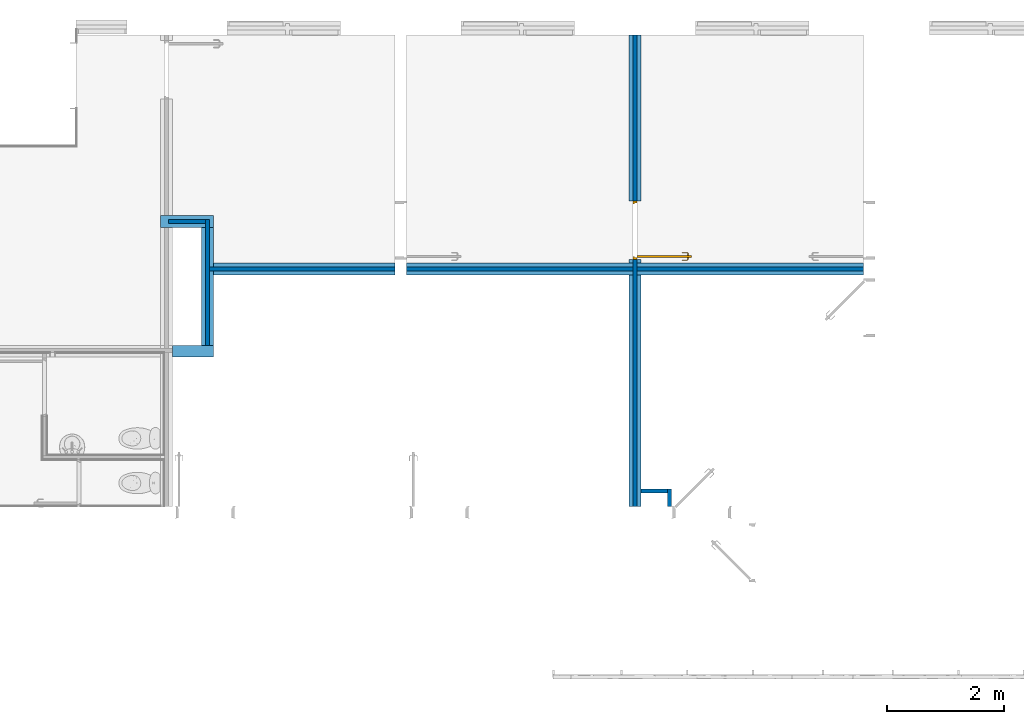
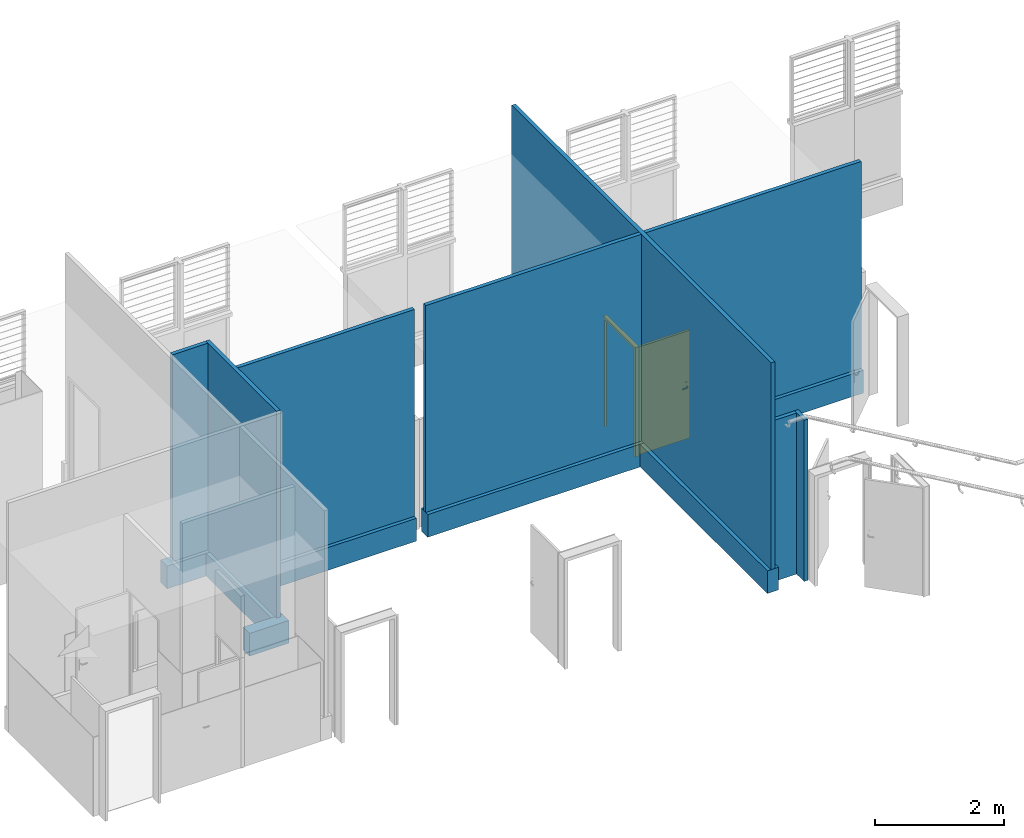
# One storey, part 8 of 18: 13 walls, 1 door, 4 openings.
"""IFC2X3 building model written with IfcOpenShell, lengths in metres."""

from ifc_helpers import new_model, entity, si_unit, converted_unit, derived_unit, direction, frame, frame_2d, origin, place, context, subcontext, project, spatial, polyline, rectangle, extrude, clip, bounded_halfspace, faceted_brep, source, transform, mapped, material, layer, layer_set, layer_usage, type_object, type_shapes, element, fill, save


model = new_model("IFC2X3")

# Units and contexts
model_context = context("Model", 3, precision=1e-05, world=origin(), true_north=direction((6.12303176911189e-17, 1.0)))
body_context = subcontext(model_context, "Body", "Model", "MODEL_VIEW")
ifc_project = project(units=[si_unit("LENGTHUNIT", "METRE"), si_unit("AREAUNIT", "SQUARE_METRE"), si_unit("VOLUMEUNIT", "CUBIC_METRE"), converted_unit("PLANEANGLEUNIT", "DEGREE", entity("IfcRatioMeasure", 0.0174532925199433), si_unit("PLANEANGLEUNIT", "RADIAN"), dimensions=[0, 0, 0, 0, 0, 0, 0]), si_unit("MASSUNIT", "GRAM", prefix="KILO"), derived_unit("MASSDENSITYUNIT", [(si_unit("MASSUNIT", "GRAM", prefix="KILO"), 1), (si_unit("LENGTHUNIT", "METRE"), -3)]), si_unit("TIMEUNIT", "SECOND"), si_unit("FREQUENCYUNIT", "HERTZ"), si_unit("THERMODYNAMICTEMPERATUREUNIT", "DEGREE_CELSIUS"), derived_unit("THERMALTRANSMITTANCEUNIT", [(si_unit("MASSUNIT", "GRAM", prefix="KILO"), 1), (si_unit("THERMODYNAMICTEMPERATUREUNIT", "KELVIN"), -1), (si_unit("TIMEUNIT", "SECOND"), -3)]), derived_unit("VOLUMETRICFLOWRATEUNIT", [(si_unit("LENGTHUNIT", "METRE"), 3), (si_unit("TIMEUNIT", "SECOND"), -1)]), si_unit("ELECTRICCURRENTUNIT", "AMPERE"), si_unit("ELECTRICVOLTAGEUNIT", "VOLT"), si_unit("POWERUNIT", "WATT"), si_unit("FORCEUNIT", "NEWTON", prefix="KILO"), si_unit("ILLUMINANCEUNIT", "LUX"), si_unit("LUMINOUSFLUXUNIT", "LUMEN"), si_unit("LUMINOUSINTENSITYUNIT", "CANDELA"), derived_unit("USERDEFINED", [(si_unit("MASSUNIT", "GRAM", prefix="KILO"), -1), (si_unit("LENGTHUNIT", "METRE"), -2), (si_unit("TIMEUNIT", "SECOND"), 3), (si_unit("LUMINOUSFLUXUNIT", "LUMEN"), 1)]), derived_unit("LINEARVELOCITYUNIT", [(si_unit("LENGTHUNIT", "METRE"), 1), (si_unit("TIMEUNIT", "SECOND"), -1)]), si_unit("PRESSUREUNIT", "PASCAL"), derived_unit("USERDEFINED", [(si_unit("LENGTHUNIT", "METRE"), -2), (si_unit("MASSUNIT", "GRAM", prefix="KILO"), 1), (si_unit("TIMEUNIT", "SECOND"), -2)])], contexts=[model_context])

# Site, building, storey
site_placement = place(None, origin())
site = spatial("IfcSite", under=ifc_project, at=site_placement, Name="Surface", CompositionType="ELEMENT")
building_placement = place(site_placement, origin())
building = spatial("IfcBuilding", under=site, at=building_placement, Name="ExPREF", CompositionType="ELEMENT")
storey_placement = place(building_placement, frame((0.0, 0.0, -4.62)))
storey = spatial("IfcBuildingStorey", under=building, at=storey_placement, Name="R-1", CompositionType="ELEMENT", Elevation=-4.62)

# Wall, opening, door
ifc_material_1 = material(Name="AA-fermacell peint")
ifc_layer_1 = layer(ifc_material_1, 0.0125)
ifc_material_2 = material(Name="AA-isolant plancher")
ifc_layer_2 = layer(ifc_material_2, 0.045)
ifc_layer_3 = layer(ifc_material_1, 0.0125)
ifc_layer_set_1 = layer_set([ifc_layer_1, ifc_layer_2, ifc_layer_3], Name="Mur de base:Générique - Int. 70 mm")
ifc_layer_usage_1 = layer_usage(ifc_layer_set_1, "AXIS2", "NEGATIVE", 0.035)
wall_type_1 = type_object("IfcWallType", Name="Mur de base:Générique - Int. 70 mm", PredefinedType="STANDARD", material=ifc_layer_set_1)
wall_1_placement = place(storey_placement, frame((57.4897436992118, -185.214488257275, 0.43), z_axis=(0.0, 0.0, 1.0), x_axis=(0.0, -1.0, 0.0)))
wall_1 = element("IfcWallStandardCase", 1, at=wall_1_placement, inside=storey, type_object=wall_type_1, material=ifc_layer_usage_1, Name="Mur de base:Générique - Int. 70 mm", ObjectType="Mur de base:Générique - Int. 70 mm", context=body_context, shape_type="Clipping", body=[
    clip(extrude(rectangle(XDim=8.04516304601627, YDim=0.0700000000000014, at=frame_2d((4.02258152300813, -7.97972798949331e-17), x_axis=(-1.0, 0.0))), origin(), (0.0, 0.0, 1.0), 3.91499999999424), bounded_halfspace(frame((7.99516304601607, 0.0349999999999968, 3.91499999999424), z_axis=(0.0, 0.0, -1.0), x_axis=(1.0, 0.0, 0.0)), True, frame((7.99516304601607, 0.0349999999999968, 3.91499999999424)), polyline([(0.0, 0.0), (0.0, -0.0700000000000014), (0.0500000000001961, -0.0700000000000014), (0.0500000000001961, 0.0), (0.0, 0.0)]))),
])
opening_1_placement = place(wall_1_placement, frame((2.83358152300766, -0.0349999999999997, -0.430000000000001)))
opening_1 = element("IfcOpeningElement", 2, at=opening_1_placement, cuts=wall_1, Name="Porte intérieur bois:PP (0.93m x 2.04m):1", ObjectType="Opening", context=body_context, shape_type="SweptSolid", body=[
    extrude(rectangle(XDim=2.075, YDim=1.0, at=frame_2d((1.0375, 0.5), x_axis=(1.0, 0.0))), frame((0.0, 0.0, 0.0), z_axis=(0.0, 1.0, 0.0), x_axis=(0.0, 0.0, 1.0)), (0.0, 0.0, 1.0), 0.07),
])
ifc_material_3 = material(Name="AA-Blanc satiné")
door_style = type_object("IfcDoorStyle", Name="PP (0.93m x 2.04m)", ConstructionType="NOTDEFINED", OperationType="SINGLE_SWING_RIGHT", ParameterTakesPrecedence=False, Sizeable=False, material=ifc_material_3)
shared_shape = source(origin(), body_context, "Body", "Brep", [
    faceted_brep([(0.150000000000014, -0.867974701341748, 0.992219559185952), (0.150000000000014, -0.872025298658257, 0.99221955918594), (0.150000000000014, -0.876000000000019, 0.992999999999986), (0.150000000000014, -0.876000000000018, 1.007), (0.150000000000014, -0.872025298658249, 1.00778044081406), (0.150000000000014, -0.867974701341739, 1.00778044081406), (0.150000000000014, -0.863999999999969, 1.007), (0.150000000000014, -0.863999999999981, 0.993000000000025), (0.172485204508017, -0.863999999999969, 1.007), (0.172485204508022, -0.863999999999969, 0.993000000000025), (0.174131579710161, -0.867974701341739, 1.00778044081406), (0.175809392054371, -0.872025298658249, 1.00778044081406), (0.191995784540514, -0.855838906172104, 1.00778044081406), (0.187945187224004, -0.854161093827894, 1.00778044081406), (0.177455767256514, -0.876000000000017, 1.007), (0.177455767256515, -0.876000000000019, 0.992999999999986), (0.175809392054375, -0.872025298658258, 0.99221955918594), (0.174131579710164, -0.867974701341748, 0.992219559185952), (0.187945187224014, -0.854161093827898, 0.992219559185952), (0.191995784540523, -0.855838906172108, 0.99221955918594), (0.183970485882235, -0.852514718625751, 1.007), (0.183970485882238, -0.852514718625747, 0.993000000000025), (0.195970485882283, -0.857485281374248, 1.007), (0.195970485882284, -0.857485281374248, 0.992999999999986), (0.187945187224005, -0.769954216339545, 1.00778044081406), (0.191995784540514, -0.769954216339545, 1.00778044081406), (0.195970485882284, -0.769954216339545, 1.007), (0.195970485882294, -0.769954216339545, 0.992999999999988), (0.191995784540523, -0.769954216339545, 0.99221955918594), (0.187945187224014, -0.769954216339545, 0.992219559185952), (0.183970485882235, -0.769954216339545, 0.993000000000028), (0.183970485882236, -0.769954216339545, 1.007), (0.183970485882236, -0.811234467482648, 1.007), (0.183970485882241, -0.811234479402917, 0.993000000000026), (0.189970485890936, -0.812057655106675, 1.0078786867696), (0.195970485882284, -0.817554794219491, 1.007), (0.195970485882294, -0.8175547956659, 0.992999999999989), (0.189970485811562, -0.812057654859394, 0.992121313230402)], [[[0, 1, 2, 3, 4, 5, 6, 7]], [[8, 9, 7, 6]], [[5, 10, 8, 6]], [[5, 4, 11, 12, 13, 10]], [[3, 14, 11, 4]], [[14, 3, 2, 15]], [[2, 1, 16, 15]], [[1, 0, 17, 18, 19, 16]], [[0, 7, 9, 17]], [[20, 21, 9, 8]], [[8, 10, 13, 20]], [[14, 22, 12, 11]], [[23, 22, 14, 15]], [[15, 16, 19, 23]], [[17, 9, 21, 18]], [[24, 25, 26, 27, 28, 29, 30, 31]], [[21, 20, 32, 31, 30, 33]], [[34, 24, 32]], [[25, 34, 35]], [[13, 32, 20]], [[24, 31, 32]], [[25, 35, 26]], [[35, 12, 22]], [[34, 12, 35]], [[34, 13, 12]], [[34, 32, 13]], [[24, 34, 25]], [[22, 23, 36, 27, 26, 35]], [[37, 28, 36]], [[36, 28, 27]], [[36, 23, 19]], [[18, 33, 37]], [[33, 18, 21]], [[30, 29, 33]], [[37, 29, 28]], [[37, 33, 29]], [[37, 36, 19]], [[18, 37, 19]]]),
    faceted_brep([(0.100000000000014, -0.867974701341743, 1.00778044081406), (0.100000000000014, -0.872025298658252, 1.00778044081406), (0.100000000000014, -0.876000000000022, 1.00699999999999), (0.100000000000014, -0.876000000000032, 0.992999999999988), (0.100000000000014, -0.87202529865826, 0.99221955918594), (0.100000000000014, -0.867974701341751, 0.992219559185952), (0.100000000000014, -0.863999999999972, 0.993000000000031), (0.100000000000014, -0.863999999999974, 1.007), (0.0739954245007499, -0.872025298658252, 1.00778044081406), (0.0723490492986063, -0.876000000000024, 1.007), (0.0756732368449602, -0.867974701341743, 1.00778044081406), (0.0619971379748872, -0.854298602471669, 1.00778044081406), (0.0579465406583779, -0.855976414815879, 1.00778044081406), (0.0773196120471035, -0.863999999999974, 1.007), (0.0773196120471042, -0.863999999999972, 0.993000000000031), (0.0756732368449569, -0.867974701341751, 0.992219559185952), (0.0739954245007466, -0.87202529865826, 0.99221955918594), (0.0579465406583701, -0.855976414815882, 0.99221955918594), (0.0619971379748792, -0.854298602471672, 0.992219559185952), (0.0723490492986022, -0.876000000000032, 0.992999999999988), (0.053971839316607, -0.857622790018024, 1.007), (0.0659718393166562, -0.852652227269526, 1.007), (0.0659718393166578, -0.852652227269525, 0.993000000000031), (0.0539718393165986, -0.857622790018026, 0.992999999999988), (0.0539718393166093, -0.769981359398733, 1.007), (0.0579465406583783, -0.769981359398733, 1.00778044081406), (0.0619971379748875, -0.769981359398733, 1.00778044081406), (0.0659718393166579, -0.769981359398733, 1.00699999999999), (0.0659718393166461, -0.769981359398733, 0.993000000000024), (0.0619971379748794, -0.769981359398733, 0.992219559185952), (0.0579465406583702, -0.769981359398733, 0.99221955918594), (0.0539718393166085, -0.769981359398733, 0.992999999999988), (0.059971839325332, -0.812139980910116, 1.0078786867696), (0.0539718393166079, -0.817692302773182, 1.007), (0.065971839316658, -0.811316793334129, 1.007), (0.0659718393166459, -0.811316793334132, 0.993000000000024), (0.0599718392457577, -0.812139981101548, 0.992121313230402), (0.0539718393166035, -0.817692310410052, 0.992999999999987)], [[[0, 1, 2, 3, 4, 5, 6, 7]], [[2, 1, 8, 9]], [[1, 0, 10, 11, 12, 8]], [[0, 7, 13, 10]], [[14, 13, 7, 6]], [[5, 15, 14, 6]], [[5, 4, 16, 17, 18, 15]], [[3, 19, 16, 4]], [[9, 19, 3, 2]], [[9, 8, 12, 20]], [[10, 13, 21, 11]], [[22, 21, 13, 14]], [[14, 15, 18, 22]], [[16, 19, 23, 17]], [[20, 23, 19, 9]], [[24, 25, 26, 27, 28, 29, 30, 31]], [[32, 25, 33]], [[33, 25, 24]], [[33, 20, 12]], [[11, 34, 32]], [[34, 11, 21]], [[27, 26, 34]], [[32, 26, 25]], [[32, 34, 26]], [[32, 33, 12]], [[11, 32, 12]], [[21, 22, 35, 28, 27, 34]], [[36, 29, 35]], [[30, 36, 37]], [[18, 35, 22]], [[29, 28, 35]], [[30, 37, 31]], [[37, 17, 23]], [[36, 17, 37]], [[36, 18, 17]], [[36, 35, 18]], [[29, 36, 30]], [[23, 20, 33, 24, 31, 37]]]),
    faceted_brep([(0.145000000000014, -0.89, 0.870000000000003), (0.145000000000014, -0.89, 1.08), (0.145000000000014, -0.880352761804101, 1.08399601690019), (0.145000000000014, -0.870000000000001, 1.08535898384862), (0.145000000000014, -0.8596472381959, 1.08399601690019), (0.145000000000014, -0.850000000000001, 1.08), (0.145000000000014, -0.849999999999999, 0.870000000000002), (0.145000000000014, -0.859647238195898, 0.866003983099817), (0.145000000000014, -0.869999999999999, 0.86464101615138), (0.145000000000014, -0.8803527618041, 0.866003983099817), (0.150000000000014, -0.870000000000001, 1.08535898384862), (0.150000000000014, -0.880352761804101, 1.08399601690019), (0.150000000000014, -0.89, 1.08), (0.150000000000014, -0.889999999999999, 0.870000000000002), (0.150000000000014, -0.8803527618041, 0.866003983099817), (0.150000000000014, -0.869999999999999, 0.86464101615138), (0.150000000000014, -0.859647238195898, 0.866003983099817), (0.150000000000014, -0.849999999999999, 0.870000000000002), (0.150000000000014, -0.850000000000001, 1.08), (0.150000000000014, -0.8596472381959, 1.08399601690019)], [[[0, 1, 2, 3, 4, 5, 6, 7, 8, 9]], [[10, 11, 12, 13, 14, 15, 16, 17, 18, 19]], [[4, 19, 18, 5]], [[3, 10, 19, 4]], [[2, 11, 10, 3]], [[2, 1, 12, 11]], [[13, 12, 1, 0]], [[9, 14, 13, 0]], [[8, 15, 14, 9]], [[7, 16, 15, 8]], [[7, 6, 17, 16]], [[17, 6, 5, 18]]]),
    faceted_brep([(0.100000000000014, -0.89, 0.870000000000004), (0.100000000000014, -0.89, 1.08), (0.100000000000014, -0.880352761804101, 1.08399601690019), (0.100000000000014, -0.87, 1.08535898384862), (0.100000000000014, -0.8596472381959, 1.08399601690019), (0.100000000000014, -0.850000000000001, 1.08), (0.100000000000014, -0.849999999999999, 0.870000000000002), (0.100000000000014, -0.859647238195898, 0.866003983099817), (0.100000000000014, -0.869999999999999, 0.86464101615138), (0.100000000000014, -0.8803527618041, 0.866003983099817), (0.105000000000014, -0.89, 1.08), (0.105000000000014, -0.889999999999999, 0.870000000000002), (0.105000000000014, -0.8803527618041, 0.866003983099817), (0.105000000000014, -0.869999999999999, 0.86464101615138), (0.105000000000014, -0.859647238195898, 0.866003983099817), (0.105000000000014, -0.849999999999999, 0.870000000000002), (0.105000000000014, -0.850000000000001, 1.08), (0.105000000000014, -0.8596472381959, 1.08399601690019), (0.105000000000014, -0.87, 1.08535898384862), (0.105000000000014, -0.880352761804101, 1.08399601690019)], [[[0, 1, 2, 3, 4, 5, 6, 7, 8, 9]], [[10, 11, 12, 13, 14, 15, 16, 17, 18, 19]], [[9, 12, 11, 0]], [[8, 13, 12, 9]], [[7, 14, 13, 8]], [[7, 6, 15, 14]], [[15, 6, 5, 16]], [[4, 17, 16, 5]], [[3, 18, 17, 4]], [[2, 19, 18, 3]], [[2, 1, 10, 19]], [[11, 10, 1, 0]]]),
    faceted_brep([(0.145000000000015, -0.93, 2.04), (0.145000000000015, -0.93, 0.0), (0.145000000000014, 0.0, 0.0), (0.145000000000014, 0.0, 2.04), (0.105000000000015, -0.93, 2.04), (0.105000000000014, 0.0, 2.04), (0.105000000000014, 0.0, 0.0), (0.105000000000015, -0.93, 0.0)], [[[0, 1, 2, 3]], [[4, 5, 6, 7]], [[3, 5, 4, 0]], [[2, 6, 5, 3]], [[1, 7, 6, 2]], [[0, 4, 7, 1]]]),
    faceted_brep([(1.07000000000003, 0.0, 0.0), (1.03500000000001, 0.0, 0.0), (1.03500000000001, 0.04, 0.0), (1.02000000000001, 0.04, 0.0), (1.02000000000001, 0.0699999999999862, 0.0), (1.07000000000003, 0.0699999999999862, 0.0), (1.07000000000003, 0.0699999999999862, 2.07500000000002), (1.07000000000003, 0.0, 2.07500000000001), (1.02000000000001, 0.0699999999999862, 2.025), (0.120000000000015, 0.0699999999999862, 2.025), (0.120000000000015, 0.0699999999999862, 0.0), (0.0699999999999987, 0.0699999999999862, 0.0), (0.0699999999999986, 0.0699999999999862, 2.07500000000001), (1.02000000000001, 0.04, 2.025), (1.03500000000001, 0.04, 2.04), (0.105000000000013, 0.04, 2.04), (0.105000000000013, 0.04, 0.0), (0.120000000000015, 0.04, 0.0), (0.120000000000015, 0.04, 2.025), (1.03500000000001, 0.0, 2.04), (0.0699999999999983, 0.0, 2.07500000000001), (0.0699999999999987, 0.0, 0.0), (0.105000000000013, 0.0, 0.0), (0.105000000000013, 0.0, 2.04)], [[[0, 1, 2, 3, 4, 5]], [[5, 6, 7, 0]], [[4, 8, 9, 10, 11, 12, 6, 5]], [[3, 13, 8, 4]], [[2, 14, 15, 16, 17, 18, 13, 3]], [[1, 19, 14, 2]], [[0, 7, 20, 21, 22, 23, 19, 1]], [[12, 11, 21, 20]], [[21, 11, 10, 17, 16, 22]], [[18, 17, 10, 9]], [[23, 22, 16, 15]], [[6, 12, 20, 7]], [[13, 18, 9, 8]], [[19, 23, 15, 14]]]),
])
type_shapes(door_style, [shared_shape])
door_placement = place(opening_1_placement, frame((1.06999999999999, 0.0700000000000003, 0.0), z_axis=(0.0, 0.0, 1.0), x_axis=(-1.0, 0.0, 0.0)))
door = element("IfcDoor", 3, at=door_placement, inside=storey, type_object=door_style, material=ifc_material_3, Name="Porte intérieur bois:PP (0.93m x 2.04m)", ObjectType="PP (0.93m x 2.04m)", OverallHeight=2.075, OverallWidth=1.00000000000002, context=body_context, shape_type="MappedRepresentation", body=[
    mapped(shared_shape, transform((0.0, 0.0, 0.0), scale=1.0)),
])
fill(opening_1, door)

# Wall, opening
ifc_layer_usage_2 = layer_usage(ifc_layer_set_1, "AXIS2", "NEGATIVE", 0.035)
wall_2_placement = place(storey_placement, frame((53.5897436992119, -189.208069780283, 0.43)))
wall_2 = element("IfcWallStandardCase", 4, at=wall_2_placement, inside=storey, type_object=wall_type_1, material=ifc_layer_usage_2, Name="Mur de base:Générique - Int. 70 mm", ObjectType="Mur de base:Générique - Int. 70 mm", context=body_context, shape_type="SweptSolid", body=[
    extrude(rectangle(XDim=7.79999999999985, YDim=0.0700000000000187, at=frame_2d((3.89999999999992, 0.0), x_axis=(-1.0, 0.0))), origin(), (0.0, 0.0, 1.0), 3.9149999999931),
])
opening_2_placement = place(storey_placement, frame((53.5897436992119, -189.208069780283, 0.43)))
element("IfcOpeningElement", 5, at=opening_2_placement, cuts=wall_2, Name="Mur de base:Générique - Int. 70 mm:1", ObjectType="Opening", context=body_context, shape_type="SweptSolid", body=[
    extrude(rectangle(XDim=3.9149999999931, YDim=0.0699999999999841, at=frame_2d((0.0, -1.73264180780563e-14), x_axis=(1.0, 0.0))), frame((3.86499999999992, 0.0, 1.95749999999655), z_axis=(1.0, 0.0, 0.0), x_axis=(0.0, 0.0, -1.0)), (0.0, 0.0, 1.0), 0.0700000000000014),
])

# Walls
ifc_layer_usage_3 = layer_usage(ifc_layer_set_1, "AXIS2", "NEGATIVE", 0.035)
wall_3_placement = place(storey_placement, frame((50.2267436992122, -189.208069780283, 0.43)))
element("IfcWallStandardCase", 6, at=wall_3_placement, inside=storey, type_object=wall_type_1, material=ifc_layer_usage_3, Name="Mur de base:Générique - Int. 70 mm", ObjectType="Mur de base:Générique - Int. 70 mm", context=body_context, shape_type="SweptSolid", body=[
    extrude(rectangle(XDim=3.16299999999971, YDim=0.0700000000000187, at=frame_2d((1.58149999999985, 0.0), x_axis=(-1.0, 0.0))), origin(), (0.0, 0.0, 1.0), 3.91499999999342),
])
ifc_layer_usage_4 = layer_usage(ifc_layer_set_1, "AXIS2", "NEGATIVE", 0.035)
wall_4_placement = place(storey_placement, frame((50.1917436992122, -190.563069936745, 0.43), z_axis=(0.0, 0.0, 1.0), x_axis=(0.0, 1.0, 0.0)))
element("IfcWallStandardCase", 7, at=wall_4_placement, inside=storey, type_object=wall_type_1, material=ifc_layer_usage_4, Name="Mur de base:Générique - Int. 70 mm", ObjectType="Mur de base:Générique - Int. 70 mm", context=body_context, shape_type="SweptSolid", body=[
    extrude(rectangle(XDim=2.20200015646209, YDim=0.0700000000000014, at=frame_2d((1.10100007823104, 0.0), x_axis=(-1.0, 0.0))), origin(), (0.0, 0.0, 1.0), 3.91499999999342),
])
ifc_layer_usage_5 = layer_usage(ifc_layer_set_1, "AXIS2", "NEGATIVE", 0.035)
wall_5_placement = place(storey_placement, frame((49.524743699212, -188.396069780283, 0.43)))
element("IfcWallStandardCase", 8, at=wall_5_placement, inside=storey, type_object=wall_type_1, material=ifc_layer_usage_5, Name="Mur de base:Générique - Int. 70 mm", ObjectType="Mur de base:Générique - Int. 70 mm", context=body_context, shape_type="SweptSolid", body=[
    extrude(rectangle(XDim=0.63200000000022, YDim=0.0700000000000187, at=frame_2d((0.31600000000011, 0.0), x_axis=(-1.0, 0.0))), origin(), (0.0, 0.0, 1.0), 3.91499999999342),
])
ifc_layer_usage_6 = layer_usage(ifc_layer_set_1, "AXIS2", "NEGATIVE", 0.035)
wall_6_placement = place(storey_placement, frame((58.0797436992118, -192.959651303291, 0.0), z_axis=(0.0, 0.0, 1.0), x_axis=(0.0, -1.0, 0.0)))
element("IfcWallStandardCase", 9, at=wall_6_placement, inside=storey, type_object=wall_type_1, material=ifc_layer_usage_6, Name="Mur de base:Générique - Int. 70 mm", ObjectType="Mur de base:Générique - Int. 70 mm", context=body_context, shape_type="SweptSolid", body=[
    extrude(rectangle(XDim=0.300000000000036, YDim=0.0700000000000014, at=frame_2d((0.150000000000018, 0.0), x_axis=(-1.0, 0.0))), origin(), (0.0, 0.0, 1.0), 3.05),
])
ifc_layer_usage_7 = layer_usage(ifc_layer_set_1, "AXIS2", "NEGATIVE", 0.035)
wall_7_placement = place(storey_placement, frame((57.5247436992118, -192.994651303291, 0.0)))
element("IfcWallStandardCase", 10, at=wall_7_placement, inside=storey, type_object=wall_type_1, material=ifc_layer_usage_7, Name="Mur de base:Générique - Int. 70 mm", ObjectType="Mur de base:Générique - Int. 70 mm", context=body_context, shape_type="SweptSolid", body=[
    extrude(rectangle(XDim=0.454999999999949, YDim=0.0699999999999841, at=frame_2d((0.292500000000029, 1.73264180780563e-14), x_axis=(-1.0, 0.0))), origin(), (0.0, 0.0, 1.0), 3.05),
])
ifc_material_4 = material(Name="AA-mur parpaing 20")
ifc_layer_4 = layer(ifc_material_4, 0.2)
ifc_layer_set_2 = layer_set([ifc_layer_4], Name="Mur de base:A-mur parpaing 20")
ifc_layer_usage_8 = layer_usage(ifc_layer_set_2, "AXIS2", "NEGATIVE", 0.1)
wall_type_2 = type_object("IfcWallType", Name="Mur de base:A-mur parpaing 20", PredefinedType="STANDARD", material=ifc_layer_set_2)
wall_8_placement = place(storey_placement, frame((49.389743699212, -188.396069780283, 0.0)))
element("IfcWallStandardCase", 11, at=wall_8_placement, inside=storey, type_object=wall_type_2, material=ifc_layer_usage_8, Name="Mur de base:A-mur parpaing 20", ObjectType="Mur de base:A-mur parpaing 20", context=body_context, shape_type="SweptSolid", body=[
    extrude(rectangle(XDim=0.902000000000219, YDim=0.200000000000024, at=frame_2d((0.45100000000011, 0.0), x_axis=(-1.0, 0.0))), origin(), (0.0, 0.0, 1.0), 0.43),
])
ifc_layer_usage_9 = layer_usage(ifc_layer_set_2, "AXIS2", "NEGATIVE", 0.1)
wall_9_placement = place(storey_placement, frame((50.1917436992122, -188.496069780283, 0.0), z_axis=(0.0, 0.0, 1.0), x_axis=(0.0, -1.0, 0.0)))
element("IfcWallStandardCase", 12, at=wall_9_placement, inside=storey, type_object=wall_type_2, material=ifc_layer_usage_9, Name="Mur de base:A-mur parpaing 20", ObjectType="Mur de base:A-mur parpaing 20", context=body_context, shape_type="SweptSolid", body=[
    extrude(rectangle(XDim=2.01399984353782, YDim=0.200000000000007, at=frame_2d((1.00699992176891, 0.0), x_axis=(-1.0, 0.0))), origin(), (0.0, 0.0, 1.0), 0.43),
])
ifc_layer_usage_10 = layer_usage(ifc_layer_set_2, "AXIS2", "NEGATIVE", 0.1)
wall_10_placement = place(storey_placement, frame((50.2917436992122, -190.61006962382, 0.0), z_axis=(0.0, 0.0, 1.0), x_axis=(-1.0, 0.0, 0.0)))
element("IfcWallStandardCase", 13, at=wall_10_placement, inside=storey, type_object=wall_type_2, material=ifc_layer_usage_10, Name="Mur de base:A-mur parpaing 20", ObjectType="Mur de base:A-mur parpaing 20", context=body_context, shape_type="SweptSolid", body=[
    extrude(rectangle(XDim=0.702000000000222, YDim=0.200000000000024, at=frame_2d((0.351000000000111, 0.0), x_axis=(-1.0, 0.0))), origin(), (0.0, 0.0, 1.0), 0.43),
])
ifc_layer_usage_11 = layer_usage(ifc_layer_set_2, "AXIS2", "NEGATIVE", 0.1)
wall_11_placement = place(storey_placement, frame((50.2917436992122, -189.208069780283, 0.0)))
element("IfcWallStandardCase", 14, at=wall_11_placement, inside=storey, type_object=wall_type_2, material=ifc_layer_usage_11, Name="Mur de base:A-mur parpaing 20", ObjectType="Mur de base:A-mur parpaing 20", context=body_context, shape_type="SweptSolid", body=[
    extrude(rectangle(XDim=3.0979999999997, YDim=0.200000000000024, at=frame_2d((1.54899999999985, 0.0), x_axis=(-1.0, 0.0))), origin(), (0.0, 0.0, 1.0), 0.43),
])
ifc_layer_usage_12 = layer_usage(ifc_layer_set_2, "AXIS2", "POSITIVE", -0.1)
wall_12_placement = place(storey_placement, frame((61.3897436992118, -189.208069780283, 0.0), z_axis=(0.0, 0.0, 1.0), x_axis=(-1.0, 0.0, 0.0)))
element("IfcWallStandardCase", 15, at=wall_12_placement, inside=storey, type_object=wall_type_2, material=ifc_layer_usage_12, Name="Mur de base:A-mur parpaing 20", ObjectType="Mur de base:A-mur parpaing 20", context=body_context, shape_type="SweptSolid", body=[
    extrude(rectangle(XDim=7.79999999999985, YDim=0.200000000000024, at=frame_2d((3.89999999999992, 0.0), x_axis=(-1.0, 0.0))), origin(), (0.0, 0.0, 1.0), 0.43),
])

# Wall, openings
ifc_layer_usage_13 = layer_usage(ifc_layer_set_2, "AXIS2", "POSITIVE", -0.1)
wall_13_placement = place(storey_placement, frame((57.4897436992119, -193.259651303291, 0.0), z_axis=(0.0, 0.0, 1.0), x_axis=(0.0, 1.0, 0.0)))
wall_13 = element("IfcWallStandardCase", 16, at=wall_13_placement, inside=storey, type_object=wall_type_2, material=ifc_layer_usage_13, Name="Mur de base:A-mur parpaing 20", ObjectType="Mur de base:A-mur parpaing 20", context=body_context, shape_type="SweptSolid", body=[
    extrude(rectangle(XDim=8.04516304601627, YDim=0.200000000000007, at=frame_2d((4.02258152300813, 5.55111512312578e-16), x_axis=(-1.0, 0.0))), origin(), (0.0, 0.0, 1.0), 0.43),
])
opening_3_placement = place(storey_placement, frame((57.4897436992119, -193.259651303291, 0.0), z_axis=(0.0, 0.0, 1.0), x_axis=(0.0, 1.0, 0.0)))
element("IfcOpeningElement", 17, at=opening_3_placement, cuts=wall_13, Name="Mur de base:A-mur parpaing 20:1", ObjectType="Opening", context=body_context, shape_type="SweptSolid", body=[
    extrude(rectangle(XDim=0.43, YDim=0.199999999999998, at=frame_2d((2.63677968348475e-16, -4.32986979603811e-15), x_axis=(1.0, 0.0))), frame((3.95158152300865, 0.0, 0.215), z_axis=(1.0, 0.0, 0.0), x_axis=(0.0, 0.0, -1.0)), (0.0, 0.0, 1.0), 0.199999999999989),
])
opening_4_placement = place(wall_13_placement, frame((4.21158152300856, 1.48900000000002, 0.0)))
element("IfcOpeningElement", 18, at=opening_4_placement, cuts=wall_13, Name="Mur de base:A-mur parpaing 20", ObjectType="Opening", context=body_context, shape_type="SweptSolid", body=[
    extrude(rectangle(XDim=2.075, YDim=1.00000000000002, at=frame_2d((3.33066907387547e-16, 1.73472347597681e-14), x_axis=(1.0, 0.0))), frame((0.49999999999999, -3.048, 1.0375), z_axis=(0.0, 1.0, 0.0), x_axis=(0.0, 0.0, 1.0)), (0.0, 0.0, 1.0), 3.048),
])

save(model, "model.ifc")
